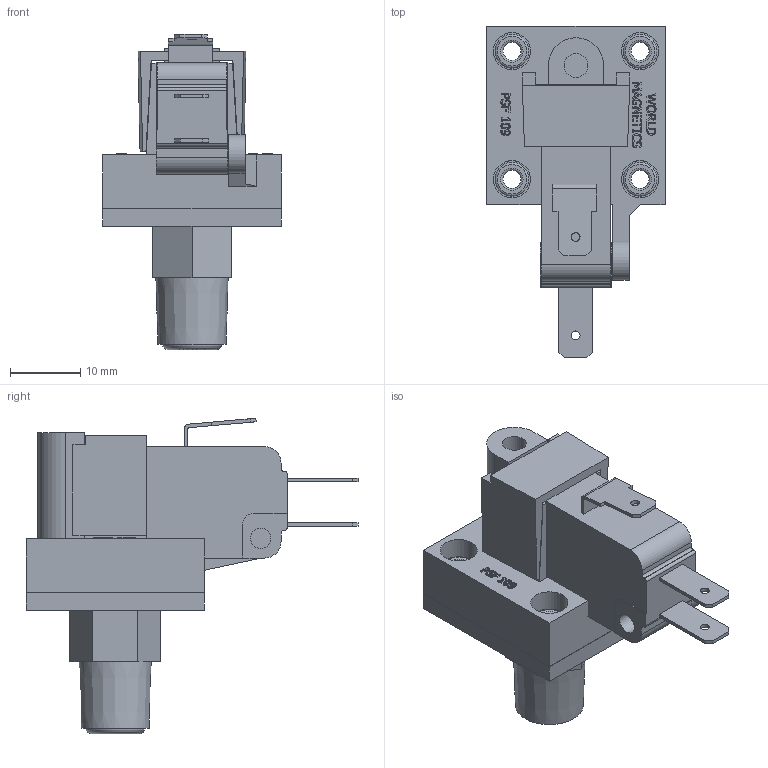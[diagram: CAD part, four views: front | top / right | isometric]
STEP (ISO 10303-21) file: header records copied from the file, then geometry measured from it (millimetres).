
FILE_DESCRIPTION((''),'2;1');
FILE_NAME('G:\DRAWINGS\SWITCH\INVENTOR DRAWINGS\WORLD MAGNETICS SWITCH\WM SALES STP FILES\PSF-109S_NPT_PORT.stp','2011-06-17T11:03:18',('dale'),(''),'Autodesk Inventor 2009','Autodesk Inventor 2009','');
FILE_SCHEMA(('AUTOMOTIVE_DESIGN { 1 0 10303 214 1 1 1 1 }'));
Length unit declared in the file: inch
Products named in the file (7): PSF109S_NPT_PORT-STP; 60929-STP; 60539-STP; 60339-STP; 60193; 60016; 60344
Assembly tree (9 placements, depth 2):
  PSF109S_NPT_PORT-STP
    60929-STP
    60539-STP
    60339-STP
    60193  x4
    60016
    60344
Bounding box: 25.4 x 47.27 x 44.92 mm (x, y, z)
Volume: 13438.6 mm3; surface area: 9935 mm2
Topology: 9 solids, 9 shells, 600 faces, 1510 edges, 996 vertices
Faces by surface type: plane 336, bspline 197, cylinder 47, torus 16, cone 4
Full cylindrical faces by diameter (mm): 1.27 x3, 2.565 x4, 2.896 x1, 3.073 x4, 3.372 x1, 4.013 x1, 4.166 x1, 4.572 x4, 4.826 x4, 5.08 x4
Entity records: 18406 total; most frequent: CARTESIAN_POINT 5863, ORIENTED_EDGE 2736, DIRECTION 1940, EDGE_CURVE 1368, VECTOR 964, LINE 964, VERTEX_POINT 936, EDGE_LOOP 670
